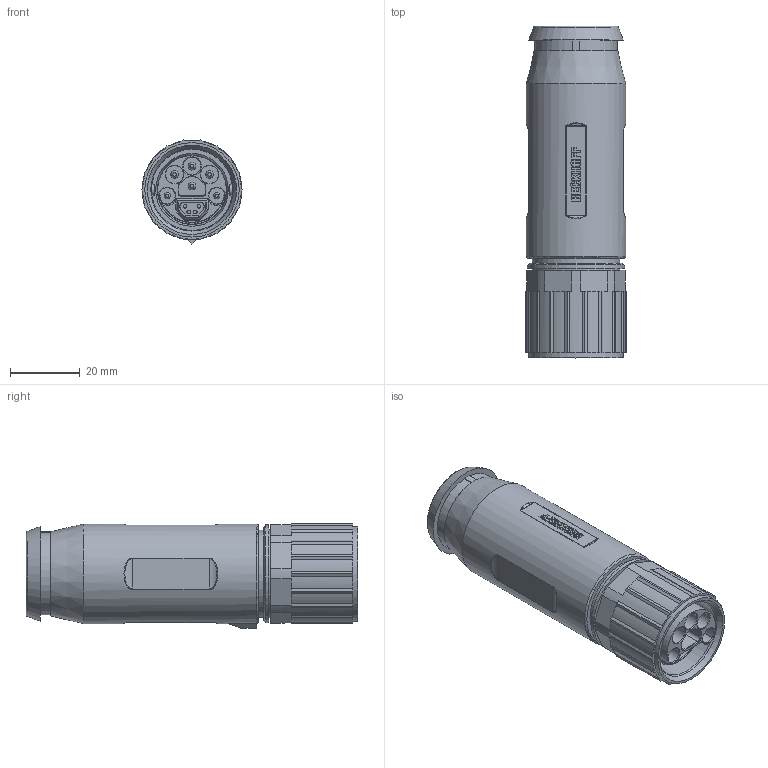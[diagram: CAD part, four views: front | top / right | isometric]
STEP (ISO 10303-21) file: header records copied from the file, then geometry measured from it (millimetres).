
FILE_DESCRIPTION(/* description */ (''),/* implementation_level */ '2;1');
FILE_NAME(/* name */ 'X:\0-inventor\0-3d-Teile\PC-Compo\solids\EtherCAT-P_Stecker_Buchsen\0-Ausgabe\B23 ENP und ECP_T0509\B23_Umspritzt\ENP\6pol\ENP_6pol_Pst_Step.stp',/* time_stamp */ '2019-05-16T15:46:32+02:00',/* author */ ('ChristianKreuzer'),/* organization */ ('Design-AG'),/* preprocessor_version */ 'ST-DEVELOPER v17.2',/* originating_system */ 'Autodesk Inventor 2019',/* authorisation */ '');
FILE_SCHEMA (('AUTOMOTIVE_DESIGN { 1 0 10303 214 3 1 1 }'));
Length unit declared in the file: millimetre
Products named in the file (1): ENP_6pol_Pst_Step
Bounding box: 29 x 94.9 x 29.78 mm (x, y, z)
Volume: 52288.9 mm3; surface area: 19360.8 mm2
Topology: 13 solids, 13 shells, 737 faces, 1987 edges, 1304 vertices
Faces by surface type: plane 564, cylinder 104, cone 42, bspline 22, torus 5
Full cylindrical faces by diameter (mm): 1 x4, 1.8 x2, 2.25 x4, 3 x2, 5 x3, 19.6 x1, 19.8 x1, 23.2 x1, 24.95 x1, 25.1 x1, 25.2 x1, 26.4 x1, 27 x1, 28 x1, 28.5 x1
Entity records: 24375 total; most frequent: CARTESIAN_POINT 4860, ORIENTED_EDGE 3970, DIRECTION 3728, EDGE_CURVE 1985, LINE 1584, VECTOR 1584, VERTEX_POINT 1304, AXIS2_PLACEMENT_3D 1072
